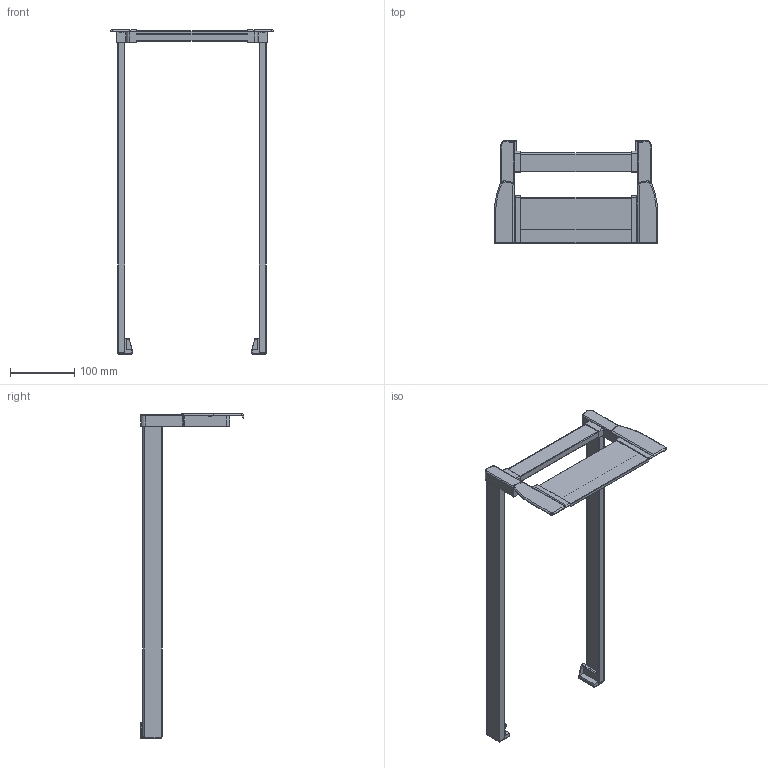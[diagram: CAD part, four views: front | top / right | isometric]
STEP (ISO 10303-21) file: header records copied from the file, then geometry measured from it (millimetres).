
FILE_DESCRIPTION (( 'STEP AP214' ), '1' );
FILE_NAME ('1_P620_NL 500_KAB 300_19er KS_.step', '2009-09-16T06:30:08', ( 'Waldinger Reinhard' ), ( 'Grass GmbH' ), 'SwSTEP 2.0', 'SolidWorks 2009', '' );
FILE_SCHEMA (( 'AUTOMOTIVE_DESIGN' ));
Length unit declared in the file: millimetre
Products named in the file (1): 1_P620_NL 500_KAB 300_19er KS_
Bounding box: 253.6 x 160.5 x 502.8 mm (x, y, z)
Volume: 632837.8 mm3; surface area: 155521.9 mm2
Topology: 1 solids, 1 shells, 218 faces, 576 edges, 364 vertices
Faces by surface type: plane 97, cylinder 89, torus 28, sphere 2, bspline 2
Entity records: 6974 total; most frequent: CARTESIAN_POINT 1341, DIRECTION 1192, ORIENTED_EDGE 1148, EDGE_CURVE 574, AXIS2_PLACEMENT_3D 431, VERTEX_POINT 364, VECTOR 330, LINE 330
